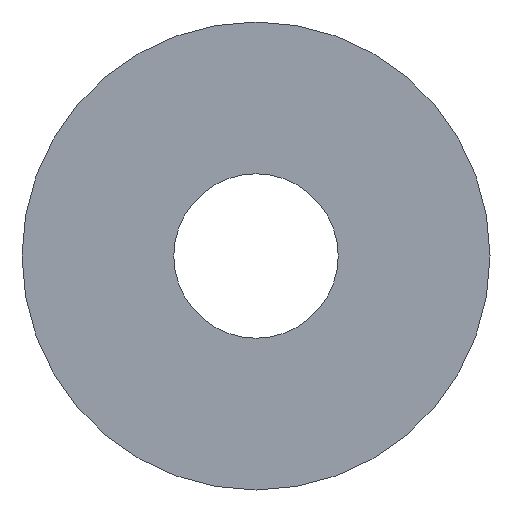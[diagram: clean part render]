
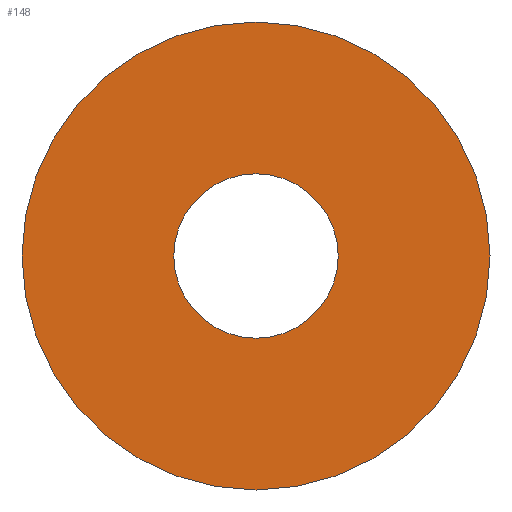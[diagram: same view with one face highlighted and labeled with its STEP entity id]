
A CAD part, front view. The second image highlights one B-rep face of the part: STEP entity #148.
In plain terms, the highlighted planar face has unit normal (0, -1, 0).
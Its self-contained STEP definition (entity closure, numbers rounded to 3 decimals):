
#1 = ORIENTED_EDGE ( 'NONE', *, *, #73, .T. ) ;
#3 = VERTEX_POINT ( 'NONE', #233 ) ;
#4 = AXIS2_PLACEMENT_3D ( 'NONE', #164, #161, #159 ) ;
#10 = VERTEX_POINT ( 'NONE', #215 ) ;
#11 = FACE_OUTER_BOUND ( 'NONE', #203, .T. ) ;
#13 = EDGE_CURVE ( 'NONE', #10, #235, #110, .T. ) ;
#15 = DIRECTION ( 'NONE',  ( 0., 0., 1. ) ) ;
#16 = DIRECTION ( 'NONE',  ( 0., 1., 0. ) ) ;
#23 = ORIENTED_EDGE ( 'NONE', *, *, #13, .F. ) ;
#35 = EDGE_CURVE ( 'NONE', #37, #3, #101, .T. ) ;
#37 = VERTEX_POINT ( 'NONE', #193 ) ;
#49 = DIRECTION ( 'NONE',  ( 0., 0., 1. ) ) ;
#51 = DIRECTION ( 'NONE',  ( 0., 1., 0. ) ) ;
#55 = CIRCLE ( 'NONE', #231, 6.5 ) ;
#57 = EDGE_CURVE ( 'NONE', #235, #10, #242, .T. ) ;
#60 = CARTESIAN_POINT ( 'NONE',  ( 0., 0., 0. ) ) ;
#73 = EDGE_CURVE ( 'NONE', #3, #37, #55, .T. ) ;
#78 = AXIS2_PLACEMENT_3D ( 'NONE', #201, #199, #197 ) ;
#82 = PLANE ( 'NONE',  #136 ) ;
#87 = DIRECTION ( 'NONE',  ( 0., 0., 1. ) ) ;
#89 = DIRECTION ( 'NONE',  ( 0., 1., 0. ) ) ;
#90 = CARTESIAN_POINT ( 'NONE',  ( 0., 0., 0. ) ) ;
#96 = ORIENTED_EDGE ( 'NONE', *, *, #57, .F. ) ;
#101 = CIRCLE ( 'NONE', #4, 6.5 ) ;
#105 = CARTESIAN_POINT ( 'NONE',  ( 0., 0., -18.5 ) ) ;
#110 = CIRCLE ( 'NONE', #78, 18.5 ) ;
#124 = EDGE_LOOP ( 'NONE', ( #229, #1 ) ) ;
#134 = FACE_BOUND ( 'NONE', #124, .T. ) ;
#136 = AXIS2_PLACEMENT_3D ( 'NONE', #178, #16, #15 ) ;
#148 = ADVANCED_FACE ( 'NONE', ( #11, #134 ), #82, .F. ) ;
#159 = DIRECTION ( 'NONE',  ( 0., 0., 1. ) ) ;
#161 = DIRECTION ( 'NONE',  ( 0., 1., 0. ) ) ;
#164 = CARTESIAN_POINT ( 'NONE',  ( 0., 0., 0. ) ) ;
#167 = AXIS2_PLACEMENT_3D ( 'NONE', #90, #89, #87 ) ;
#178 = CARTESIAN_POINT ( 'NONE',  ( 0., 0., 0. ) ) ;
#193 = CARTESIAN_POINT ( 'NONE',  ( 0., 0., -6.5 ) ) ;
#197 = DIRECTION ( 'NONE',  ( 0., 0., 1. ) ) ;
#199 = DIRECTION ( 'NONE',  ( 0., 1., 0. ) ) ;
#201 = CARTESIAN_POINT ( 'NONE',  ( 0., 0., 0. ) ) ;
#203 = EDGE_LOOP ( 'NONE', ( #96, #23 ) ) ;
#215 = CARTESIAN_POINT ( 'NONE',  ( 0., 0., 18.5 ) ) ;
#229 = ORIENTED_EDGE ( 'NONE', *, *, #35, .T. ) ;
#231 = AXIS2_PLACEMENT_3D ( 'NONE', #60, #51, #49 ) ;
#233 = CARTESIAN_POINT ( 'NONE',  ( 0., 0., 6.5 ) ) ;
#235 = VERTEX_POINT ( 'NONE', #105 ) ;
#242 = CIRCLE ( 'NONE', #167, 18.5 ) ;
